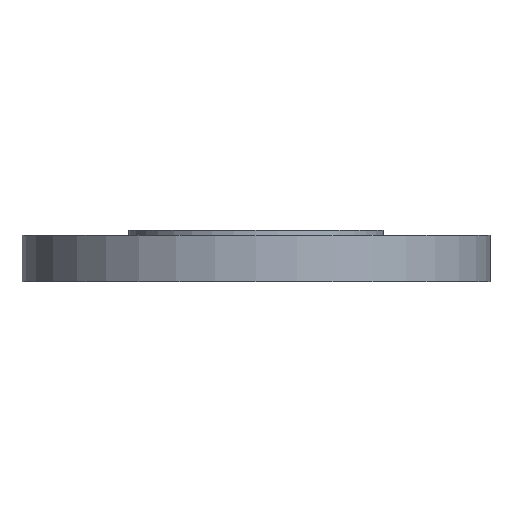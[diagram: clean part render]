
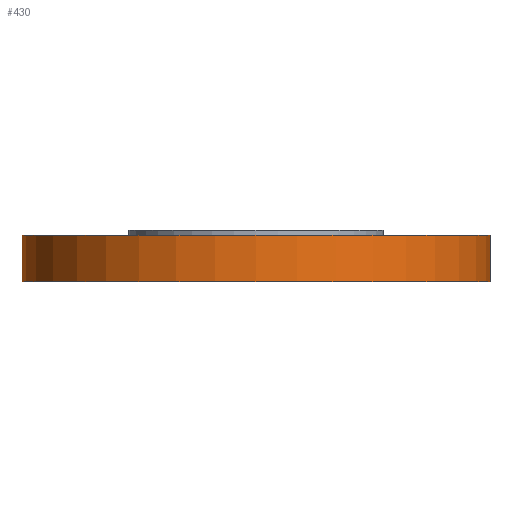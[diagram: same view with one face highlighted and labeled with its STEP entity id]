
A CAD part, front view. The second image highlights one B-rep face of the part: STEP entity #430.
In plain terms, the highlighted cylindrical face has radius 117.5 mm (diameter 235 mm), a partial arc.
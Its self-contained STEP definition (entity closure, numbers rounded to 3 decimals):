
#14 = EDGE_CURVE ( 'NONE', #885, #434, #573, .T. ) ;
#67 = VECTOR ( 'NONE', #166, 1000. ) ;
#151 = CIRCLE ( 'NONE', #287, 117.5 ) ;
#166 = DIRECTION ( 'NONE',  ( 0., 0., 1. ) ) ;
#167 = CARTESIAN_POINT ( 'NONE',  ( 117.5, 0., -75. ) ) ;
#169 = LINE ( 'NONE', #167, #67 ) ;
#174 = VECTOR ( 'NONE', #538, 1000. ) ;
#211 = CARTESIAN_POINT ( 'NONE',  ( -117.5, 0., -2.5 ) ) ;
#218 = CARTESIAN_POINT ( 'NONE',  ( 0., 0., -2.5 ) ) ;
#223 = EDGE_CURVE ( 'NONE', #434, #464, #535, .T. ) ;
#224 = CARTESIAN_POINT ( 'NONE',  ( 0., 0., -75. ) ) ;
#232 = DIRECTION ( 'NONE',  ( -1., 0., 0. ) ) ;
#240 = CYLINDRICAL_SURFACE ( 'NONE', #496, 117.5 ) ;
#249 = DIRECTION ( 'NONE',  ( 0., 0., 1. ) ) ;
#274 = CARTESIAN_POINT ( 'NONE',  ( -117.5, 0., -26. ) ) ;
#287 = AXIS2_PLACEMENT_3D ( 'NONE', #218, #717, #232 ) ;
#356 = CARTESIAN_POINT ( 'NONE',  ( 0., 0., -26. ) ) ;
#413 = EDGE_CURVE ( 'NONE', #920, #464, #151, .T. ) ;
#430 = ADVANCED_FACE ( 'NONE', ( #715 ), #240, .T. ) ;
#434 = VERTEX_POINT ( 'NONE', #274 ) ;
#436 = CARTESIAN_POINT ( 'NONE',  ( 117.5, 0., -26. ) ) ;
#452 = DIRECTION ( 'NONE',  ( 0., 0., -1. ) ) ;
#454 = DIRECTION ( 'NONE',  ( -1., 0., 0. ) ) ;
#464 = VERTEX_POINT ( 'NONE', #211 ) ;
#496 = AXIS2_PLACEMENT_3D ( 'NONE', #224, #249, #734 ) ;
#535 = LINE ( 'NONE', #537, #174 ) ;
#537 = CARTESIAN_POINT ( 'NONE',  ( -117.5, 0., -75. ) ) ;
#538 = DIRECTION ( 'NONE',  ( 0., 0., 1. ) ) ;
#568 = EDGE_CURVE ( 'NONE', #885, #920, #169, .T. ) ;
#569 = AXIS2_PLACEMENT_3D ( 'NONE', #356, #452, #454 ) ;
#573 = CIRCLE ( 'NONE', #569, 117.5 ) ;
#715 = FACE_OUTER_BOUND ( 'NONE', #972, .T. ) ;
#717 = DIRECTION ( 'NONE',  ( 0., 0., -1. ) ) ;
#734 = DIRECTION ( 'NONE',  ( 1., 0., 0. ) ) ;
#798 = ORIENTED_EDGE ( 'NONE', *, *, #223, .F. ) ;
#799 = ORIENTED_EDGE ( 'NONE', *, *, #14, .F. ) ;
#800 = ORIENTED_EDGE ( 'NONE', *, *, #568, .T. ) ;
#801 = ORIENTED_EDGE ( 'NONE', *, *, #413, .T. ) ;
#821 = CARTESIAN_POINT ( 'NONE',  ( 117.5, 0., -2.5 ) ) ;
#885 = VERTEX_POINT ( 'NONE', #436 ) ;
#920 = VERTEX_POINT ( 'NONE', #821 ) ;
#972 = EDGE_LOOP ( 'NONE', ( #798, #799, #800, #801 ) ) ;
